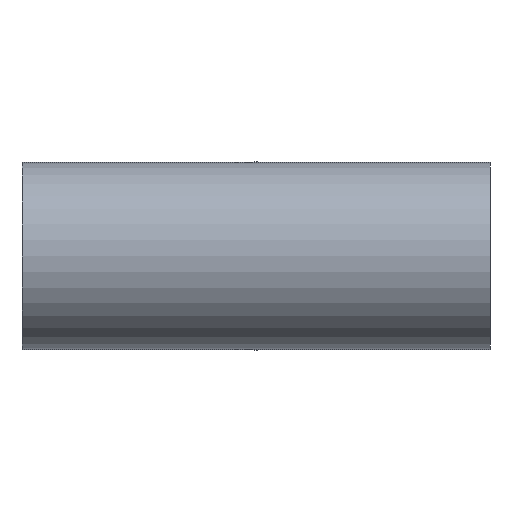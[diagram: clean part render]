
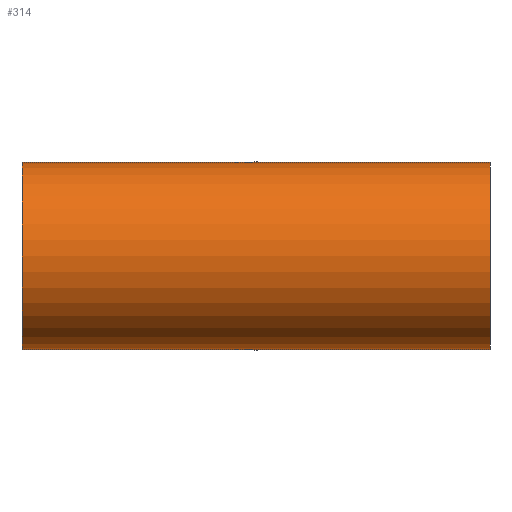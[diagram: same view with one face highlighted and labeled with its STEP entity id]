
A CAD part, front view. The second image highlights one B-rep face of the part: STEP entity #314.
In plain terms, the highlighted cylindrical face has radius 31.75 mm (diameter 63.5 mm), a partial arc.
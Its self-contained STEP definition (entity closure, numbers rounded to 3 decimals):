
#17 = EDGE_LOOP ( 'NONE', ( #103, #66, #45, #780 ) ) ;
#45 = ORIENTED_EDGE ( 'NONE', *, *, #597, .T. ) ;
#66 = ORIENTED_EDGE ( 'NONE', *, *, #599, .T. ) ;
#103 = ORIENTED_EDGE ( 'NONE', *, *, #257, .F. ) ;
#120 = VERTEX_POINT ( 'NONE', #1625 ) ;
#187 = DIRECTION ( 'NONE',  ( -1., 0., 0. ) ) ;
#257 = EDGE_CURVE ( 'NONE', #798, #1647, #1310, .T. ) ;
#314 = ADVANCED_FACE ( 'NONE', ( #673 ), #1725, .T. ) ;
#317 = AXIS2_PLACEMENT_3D ( 'NONE', #1956, #1895, #1457 ) ;
#407 = EDGE_CURVE ( 'NONE', #1259, #1647, #807, .T. ) ;
#561 = CARTESIAN_POINT ( 'NONE',  ( 79.4, 0., 0. ) ) ;
#597 = EDGE_CURVE ( 'NONE', #120, #1259, #1329, .T. ) ;
#599 = EDGE_CURVE ( 'NONE', #798, #120, #1480, .T. ) ;
#667 = DIRECTION ( 'NONE',  ( 0., 0., -1. ) ) ;
#673 = FACE_OUTER_BOUND ( 'NONE', #17, .T. ) ;
#780 = ORIENTED_EDGE ( 'NONE', *, *, #407, .T. ) ;
#798 = VERTEX_POINT ( 'NONE', #1939 ) ;
#807 = CIRCLE ( 'NONE', #1598, 31.75 ) ;
#985 = CARTESIAN_POINT ( 'NONE',  ( 79.4, 0., 31.75 ) ) ;
#1088 = VECTOR ( 'NONE', #1297, 1000. ) ;
#1136 = DIRECTION ( 'NONE',  ( 1., 0., 0. ) ) ;
#1149 = VECTOR ( 'NONE', #1136, 1000. ) ;
#1198 = DIRECTION ( 'NONE',  ( 0., 0., -1. ) ) ;
#1206 = CARTESIAN_POINT ( 'NONE',  ( -79.4, 0., 0. ) ) ;
#1251 = DIRECTION ( 'NONE',  ( 1., 0., 0. ) ) ;
#1259 = VERTEX_POINT ( 'NONE', #1946 ) ;
#1297 = DIRECTION ( 'NONE',  ( 1., 0., 0. ) ) ;
#1310 = LINE ( 'NONE', #1616, #1149 ) ;
#1329 = LINE ( 'NONE', #1673, #1088 ) ;
#1457 = DIRECTION ( 'NONE',  ( 0., 0., -1. ) ) ;
#1480 = CIRCLE ( 'NONE', #317, 31.75 ) ;
#1598 = AXIS2_PLACEMENT_3D ( 'NONE', #561, #187, #667 ) ;
#1616 = CARTESIAN_POINT ( 'NONE',  ( -79.4, 0., 31.75 ) ) ;
#1625 = CARTESIAN_POINT ( 'NONE',  ( -79.4, 0., -31.75 ) ) ;
#1647 = VERTEX_POINT ( 'NONE', #985 ) ;
#1673 = CARTESIAN_POINT ( 'NONE',  ( -79.4, 0., -31.75 ) ) ;
#1725 = CYLINDRICAL_SURFACE ( 'NONE', #1918, 31.75 ) ;
#1895 = DIRECTION ( 'NONE',  ( 1., 0., 0. ) ) ;
#1918 = AXIS2_PLACEMENT_3D ( 'NONE', #1206, #1251, #1198 ) ;
#1939 = CARTESIAN_POINT ( 'NONE',  ( -79.4, 0., 31.75 ) ) ;
#1946 = CARTESIAN_POINT ( 'NONE',  ( 79.4, 0., -31.75 ) ) ;
#1956 = CARTESIAN_POINT ( 'NONE',  ( -79.4, 0., 0. ) ) ;
